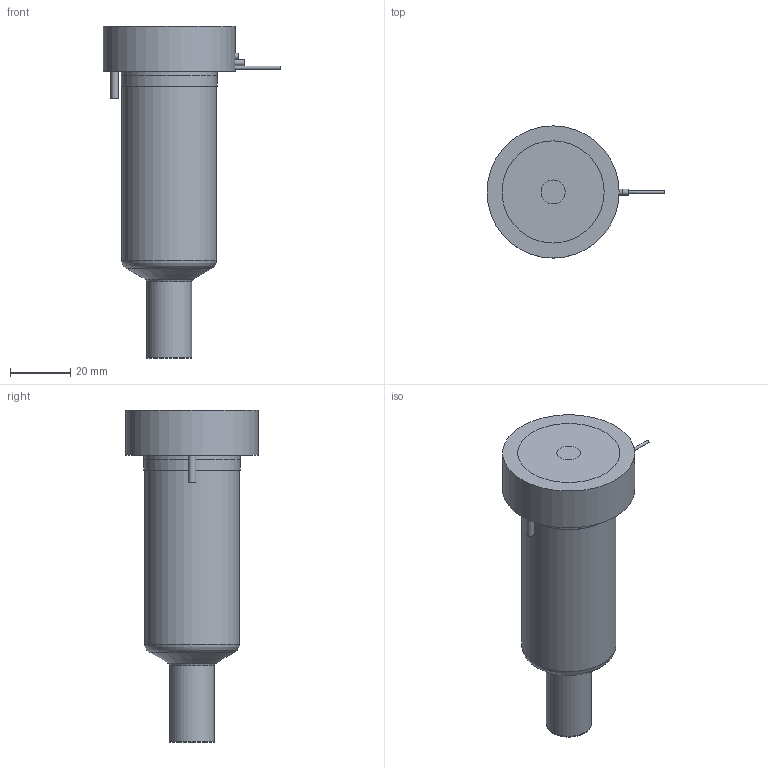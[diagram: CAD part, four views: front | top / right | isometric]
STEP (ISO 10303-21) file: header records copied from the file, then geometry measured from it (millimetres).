
FILE_DESCRIPTION(/* description */ (''),/* implementation_level */ '2;1');
FILE_NAME(/* name */ 'MXYCN19075P7U_250C_a',/* time_stamp */ '2016-02-29T16:09:32+13:00',/* author */ (''),/* organization */ (''),/* preprocessor_version */ 'ST-DEVELOPER v9',/* originating_system */ 'UGS - NX 4.0',/* authorisation */ '');
FILE_SCHEMA (('CONFIG_CONTROL_DESIGN'));
Length unit declared in the file: millimetre
Products named in the file (1): mattB1369yua
Bounding box: 59.25 x 44 x 110.53 mm (x, y, z)
Volume: 134013.4 mm3; surface area: 24846.7 mm2
Topology: 2 solids, 2 shells, 68 faces, 144 edges, 94 vertices
Faces by surface type: plane 29, cylinder 25, torus 7, cone 5, bspline 1, sphere 1
Full cylindrical faces by diameter (mm): 1 x2, 1.8 x1, 2 x2, 2.5 x1, 7 x1, 8 x1, 14.61 x1, 14.995 x2, 18.3 x1, 25.4 x1, 31.5 x1, 32 x2, 44 x1
Entity records: 2005 total; most frequent: CARTESIAN_POINT 597, DIRECTION 290, ORIENTED_EDGE 212, AXIS2_PLACEMENT_3D 131, EDGE_LOOP 112, EDGE_CURVE 106, VERTEX_POINT 84, ADVANCED_FACE 68
